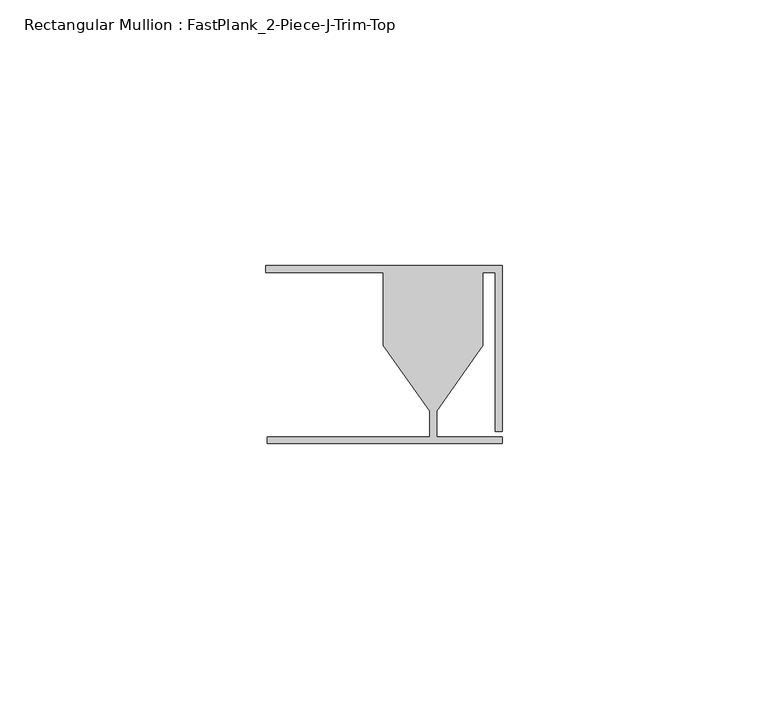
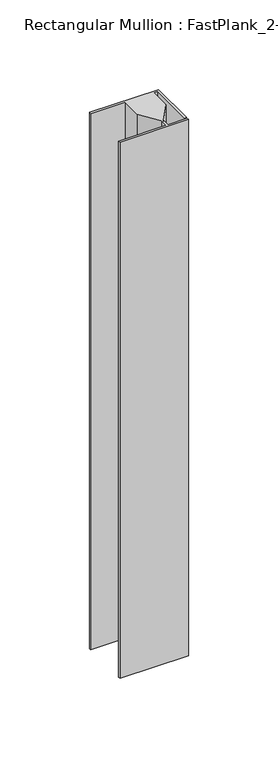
"""IFC4 building model written with IfcOpenShell, lengths in millimetres: member geometry, Rectangular Mullion : FastPlank_2-Piece-J-Trim-Top."""

from ifc_helpers import new_model, si_unit, frame, origin, place, context, project, spatial, polyline, outline, extrude, source, transform, mapped, element, save


def rectangular_mullion_fastplank_2_piece_j_trim_top_531f61c0(model_context):
    return source(origin(), model_context, "Body", "SweptSolid", [
        extrude(outline(polyline([(0.0, -11.8625052), (-44.2023711, -11.8625052), (-44.2023711, -10.5618154), (-13.6176438, -10.5618154), (-13.6176438, -5.7038113), (-22.3299553, 6.6543757), (-22.3299553, 20.3381228), (-44.4475015, 20.3381228), (-44.4475015, 21.6381202), (0.0, 21.6381202), (0.0, -9.5619969), (-1.2999974, -9.5619969), (-1.2999974, 20.3381228), (-3.6053348, 20.3381228), (-3.6053348, 6.6543757), (-12.3176464, -5.7038113), (-12.3176464, -10.5618154), (0.0, -10.5618154), (0.0, -11.8625052)])), frame((0.0, 0.0, -365.1156655), z_axis=(0.0, 0.0, 1.0), x_axis=(1.0, 0.0, 0.0)), (0.0, 0.0, 1.0), 365.1156655),
    ])


if __name__ == "__main__":
    model = new_model("IFC4")
    model_context = context("Model", 3, world=origin())
    ifc_project = project(units=[si_unit("LENGTHUNIT", "METRE", prefix="MILLI")], contexts=[model_context])
    site = spatial("IfcSite", under=ifc_project)
    building = spatial("IfcBuilding", under=site)
    placement = place(None, origin())
    rectangular_mullion_fastplank_2_piece_j_trim_top_shape = rectangular_mullion_fastplank_2_piece_j_trim_top_531f61c0(model_context)
    element("IfcMember", 1, ObjectType="Rectangular Mullion : FastPlank_2-Piece-J-Trim-Top", at=placement, inside=building, context=model_context, shape_type="MappedRepresentation", body=[
        mapped(rectangular_mullion_fastplank_2_piece_j_trim_top_shape, transform((0.0, 0.0, 0.0), x_axis=(1.0, 0.0, 0.0), y_axis=(0.0, 1.0, 0.0), z_axis=(0.0, 0.0, 1.0))),
    ])
    save(model, "model.ifc")
